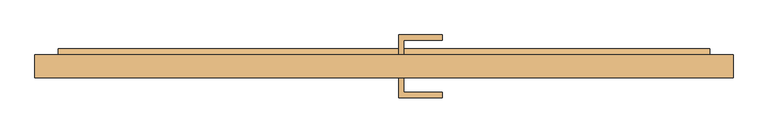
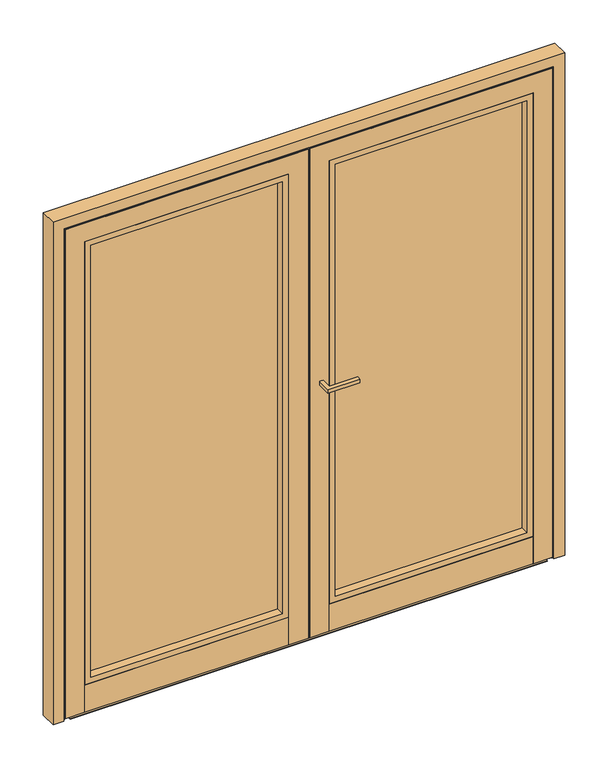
"""IFC4 building model written with IfcOpenShell, lengths in millimetres: door geometry, Reynaers_CS 77_Door_Plinth_Inward Opening_Double Vent : Reynaers_CS 77_Door_Inward Opening_Double Vent."""

from ifc_helpers import new_model, si_unit, point, frame, frame_2d, origin, place, context, project, spatial, polyline, circle_curve, trimmed, segment, composite_curve, outline, extrude, faceted_brep, source, transform, mapped, element, save


def door_1f8e81a8(model_context):
    return source(origin(), model_context, "Body", "SolidModel", [
        extrude(outline(polyline([(42.5, 80.0), (42.5, 137.5), (170.0, 137.5), (170.0, 122.5), (57.5, 122.5), (57.5, 80.0), (42.5, 80.0)])), frame((0.0, 0.0, 1062.5), z_axis=(0.0, 0.0, 1.0), x_axis=(1.0, 0.0, 0.0)), (0.0, 0.0, 1.0), 15.0),
        extrude(outline(polyline([(42.5, 12.0), (57.5, 12.0), (57.5, -30.5), (170.0, -30.5), (170.0, -45.5), (42.5, -45.5), (42.5, 12.0)])), frame((0.0, 0.0, 1062.5), z_axis=(0.0, 0.0, 1.0), x_axis=(1.0, 0.0, 0.0)), (0.0, 0.0, 1.0), 15.0),
        faceted_brep([(-18.0, 15.8, 10.5), (-3.0, 15.8, 10.5), (-3.0, 12.0, 10.5), (-80.0, 12.0, 10.5), (-80.0, 15.9785839, 10.5), (-18.0, 15.9785839, 10.5), (-18.0, 15.8, 2057.0), (-957.0, 15.8, 2057.0), (-957.0, 15.8, 49.5), (-895.0, 15.8, 49.5), (-895.0, 15.8, 10.5), (-972.0, 15.8, 10.5), (-972.0, 15.8, 2072.0), (-3.0, 15.8, 2072.0), (-3.0, 12.0, 2072.0), (-972.0, 12.0, 2072.0), (-972.0, 12.0, 10.5), (-895.0, 12.0, 10.5), (-895.0, 12.0, 1995.0), (-80.0, 12.0, 1995.0), (-80.0, 72.0, 1995.0), (-80.0, 72.0, 49.5), (-80.0, 15.9785839, 49.5), (-18.0, 15.9785839, 49.5), (-18.0, 70.2, 2057.0), (-18.0, 70.2, 49.5), (-105.0, 72.0, 49.5), (-105.0, 80.0, 49.5), (-29.0, 80.0, 49.5), (-29.0, 70.2, 49.5), (-957.0, 70.2, 2057.0), (-29.0, 70.2, 2046.0), (-946.0, 70.2, 2046.0), (-946.0, 70.2, 49.5), (-957.0, 70.2, 49.5), (-29.0, 80.0, 2046.0), (-946.0, 80.0, 2046.0), (-105.0, 80.0, 1970.0), (-870.0, 80.0, 1970.0), (-870.0, 80.0, 49.5), (-946.0, 80.0, 49.5), (-105.0, 72.0, 1970.0), (-870.0, 72.0, 1970.0), (-895.0, 72.0, 1995.0), (-895.0, 72.0, 49.5), (-870.0, 72.0, 49.5)], [[[0, 1, 2, 3, 4, 5]], [[1, 0, 6, 7, 8, 9, 10, 11, 12, 13]], [[2, 1, 13, 14]], [[3, 2, 14, 15, 16, 17, 18, 19]], [[19, 20, 21, 22, 4, 3]], [[22, 23, 5, 4]], [[24, 6, 0, 5, 23, 25]], [[23, 22, 21, 26, 27, 28, 29, 25]], [[30, 24, 25, 29, 31, 32, 33, 34]], [[35, 31, 29, 28]], [[36, 35, 28, 27, 37, 38, 39, 40]], [[41, 37, 27, 26]], [[42, 41, 26, 21, 20, 43, 44, 45]], [[7, 30, 34, 8]], [[9, 8, 34, 33, 40, 39, 45, 44]], [[32, 36, 40, 33]], [[38, 42, 45, 39]], [[43, 18, 17, 10, 9, 44]], [[10, 17, 16, 11]], [[15, 12, 11, 16]], [[30, 7, 6, 24]], [[36, 32, 31, 35]], [[42, 38, 37, 41]], [[18, 43, 20, 19]], [[12, 15, 14, 13]]]),
        faceted_brep([(80.0, 12.0, 10.5), (3.0, 12.0, 10.5), (3.0, 15.8, 10.5), (18.0, 15.8, 10.5), (18.0, 15.9785839, 10.5), (80.0, 15.9785839, 10.5), (80.0, 12.0, 1995.0), (895.0, 12.0, 1995.0), (895.0, 12.0, 10.5), (972.0, 12.0, 10.5), (972.0, 12.0, 2072.0), (3.0, 12.0, 2072.0), (3.0, 15.8, 2072.0), (972.0, 15.8, 2072.0), (972.0, 15.8, 10.5), (957.0, 15.8, 10.5), (957.0, 15.8, 2057.0), (18.0, 15.8, 2057.0), (18.0, 70.2, 2057.0), (18.0, 70.2, 49.5), (18.0, 15.9785839, 49.5), (80.0, 15.9785839, 49.5), (80.0, 72.0, 49.5), (80.0, 72.0, 1995.0), (895.0, 15.9785839, 10.5), (957.0, 15.9785839, 10.5), (895.0, 72.0, 1995.0), (895.0, 72.0, 49.5), (895.0, 15.9785839, 49.5), (957.0, 15.9785839, 49.5), (957.0, 70.2, 49.5), (957.0, 70.2, 2057.0), (946.0, 70.2, 49.5), (946.0, 70.2, 2046.0), (29.0, 70.2, 2046.0), (29.0, 70.2, 49.5), (29.0, 80.0, 49.5), (105.0, 80.0, 49.5), (105.0, 72.0, 49.5), (870.0, 72.0, 49.5), (870.0, 80.0, 49.5), (946.0, 80.0, 49.5), (946.0, 80.0, 2046.0), (29.0, 80.0, 2046.0), (870.0, 80.0, 1970.0), (105.0, 80.0, 1970.0), (870.0, 72.0, 1970.0), (105.0, 72.0, 1970.0)], [[[0, 1, 2, 3, 4, 5]], [[1, 0, 6, 7, 8, 9, 10, 11]], [[2, 1, 11, 12]], [[3, 2, 12, 13, 14, 15, 16, 17]], [[3, 17, 18, 19, 20, 4]], [[20, 21, 5, 4]], [[6, 0, 5, 21, 22, 23]], [[15, 14, 9, 8, 24, 25]], [[9, 14, 13, 10]], [[8, 7, 26, 27, 28, 24]], [[28, 29, 25, 24]], [[16, 15, 25, 29, 30, 31]], [[18, 31, 30, 32, 33, 34, 35, 19]], [[21, 20, 19, 35, 36, 37, 38, 22]], [[29, 28, 27, 39, 40, 41, 32, 30]], [[42, 33, 32, 41]], [[34, 43, 36, 35]], [[43, 42, 41, 40, 44, 45, 37, 36]], [[46, 44, 40, 39]], [[45, 47, 38, 37]], [[47, 46, 39, 27, 26, 23, 22, 38]], [[11, 10, 13, 12]], [[17, 16, 31, 18]], [[34, 33, 42, 43]], [[45, 44, 46, 47]], [[7, 6, 23, 26]]]),
        extrude(outline(polyline([(125.5, 81.0), (125.5, 894.0), (1994.0, 894.0), (1994.0, 81.0), (125.5, 81.0)]), holes=[polyline([(1970.0, 105.0), (1970.0, 870.0), (149.5, 870.0), (149.5, 105.0), (1970.0, 105.0)])]), frame((0.0, 12.0, 0.0), z_axis=(0.0, 1.0, 0.0), x_axis=(0.0, 0.0, 1.0)), (0.0, 0.0, 1.0), 33.0),
        extrude(outline(polyline([(1994.0, -894.0), (125.5, -894.0), (125.5, -81.0), (1994.0, -81.0), (1994.0, -894.0)]), holes=[polyline([(1970.0, -105.0), (149.5, -105.0), (149.5, -870.0), (1970.0, -870.0), (1970.0, -105.0)])]), frame((0.0, 12.0, 0.0), z_axis=(0.0, 1.0, 0.0), x_axis=(0.0, 0.0, 1.0)), (0.0, 0.0, 1.0), 33.0),
        extrude(outline(polyline([(889.0, 72.0), (889.0, 45.0), (86.0, 45.0), (86.0, 72.0), (889.0, 72.0)])), frame((0.0, 0.0, 130.5), z_axis=(0.0, 0.0, 1.0), x_axis=(1.0, 0.0, 0.0)), (0.0, 0.0, 1.0), 1858.5),
        extrude(outline(polyline([(-86.0, 45.0), (-889.0, 45.0), (-889.0, 72.0), (-86.0, 72.0), (-86.0, 45.0)])), frame((0.0, 0.0, 130.5), z_axis=(0.0, 0.0, 1.0), x_axis=(1.0, 0.0, 0.0)), (0.0, 0.0, 1.0), 1858.5),
        extrude(outline(polyline([(-23.0, 80.0), (23.0, 80.0), (23.0, 76.2), (8.0, 76.2), (8.0, 20.8), (-14.2, 20.8), (-14.2, 76.2), (-23.0, 76.2), (-23.0, 80.0)])), frame((0.0, 0.0, 49.5), z_axis=(0.0, 0.0, 1.0), x_axis=(1.0, 0.0, 0.0)), (0.0, 0.0, 1.0), 2002.5),
        faceted_brep([(-952.0, 76.2, 1.0), (-967.0, 76.2, 1.0), (-967.0, 21.8, 1.0), (-978.0, 21.8, 1.0), (-978.0, 12.0, 1.0), (-1020.0, 12.0, 1.0), (-1020.0, 80.0, 1.0), (-952.0, 80.0, 1.0), (-952.0, 76.2, 2052.0), (952.0, 76.2, 2052.0), (952.0, 76.2, 1.0), (967.0, 76.2, 1.0), (967.0, 76.2, 2067.0), (-967.0, 76.2, 2067.0), (-967.0, 21.8, 2067.0), (967.0, 21.8, 2067.0), (967.0, 21.8, 1.0), (978.0, 21.8, 1.0), (978.0, 21.8, 2078.0), (-978.0, 21.8, 2078.0), (-978.0, 12.0, 2078.0), (978.0, 12.0, 2078.0), (978.0, 12.0, 1.0), (1020.0, 12.0, 1.0), (1020.0, 12.0, 2120.0), (-1020.0, 12.0, 2120.0), (-1020.0, 80.0, 2120.0), (1020.0, 80.0, 2120.0), (1020.0, 80.0, 1.0), (952.0, 80.0, 1.0), (952.0, 80.0, 2052.0), (-952.0, 80.0, 2052.0)], [[[0, 1, 2, 3, 4, 5, 6, 7]], [[1, 0, 8, 9, 10, 11, 12, 13]], [[2, 1, 13, 14]], [[3, 2, 14, 15, 16, 17, 18, 19]], [[4, 3, 19, 20]], [[5, 4, 20, 21, 22, 23, 24, 25]], [[6, 5, 25, 26]], [[7, 6, 26, 27, 28, 29, 30, 31]], [[0, 7, 31, 8]], [[10, 29, 28, 23, 22, 17, 16, 11]], [[9, 30, 29, 10]], [[27, 24, 23, 28]], [[21, 18, 17, 22]], [[15, 12, 11, 16]], [[14, 13, 12, 15]], [[20, 19, 18, 21]], [[26, 25, 24, 27]], [[8, 31, 30, 9]]]),
        extrude(outline(polyline([(12.0, 2.4159265), (20.5196991, 3.1613036), (20.5196991, 14.0914034), (22.1196991, 14.0914034), (22.1196991, 12.093316), (65.7605139, 12.093316), (71.9615039, 19.4833682), (79.8421868, 13.9652547), (79.8421868, 1.0), (12.0, 1.0), (12.0, 2.4159265)])), frame((-952.0, 0.0, 0.0), z_axis=(1.0, 0.0, 0.0), x_axis=(0.0, 1.0, 0.0)), (0.0, 0.0, 1.0), 1904.0),
        extrude(outline(composite_curve([segment(polyline([(96.7195633, 31.6158958), (96.7195633, 23.6158958), (70.9525408, 23.6158958)]), True, "CONTINUOUS"), segment(trimmed(circle_curve(frame_2d((69.5167667, 20.5479726)), 3.3872704), [point((70.9525408, 23.6158958))], [point((68.6476631, 17.2740972))], False, "CARTESIAN"), True, "CONTINUOUS"), segment(trimmed(circle_curve(frame_2d((71.1854619, 25.7190751)), 8.8180539), [point((68.6476631, 17.2740972))], [point((65.7017976, 18.8134614))], False, "CARTESIAN"), True, "CONTINUOUS"), segment(polyline([(65.7017976, 18.8134614), (59.2504391, 18.8134614), (59.2504391, 27.1180563), (77.7096447, 27.1180563), (77.7096447, 49.5), (79.9899456, 49.5), (79.9899456, 37.7049787), (96.7195633, 31.6158958)]), True, "CONTINUOUS")], self_intersect=False)), frame((-952.0, 0.0, 0.0), z_axis=(1.0, 0.0, 0.0), x_axis=(0.0, 1.0, 0.0)), (0.0, 0.0, 1.0), 1904.0),
        faceted_brep([(-80.0, 72.0, 124.5), (-80.0, 12.0, 124.5), (-80.0, 12.0, 10.5), (-80.0, 15.8, 10.5), (-80.0, 15.8, 49.5), (-80.0, 72.0, 49.5), (-895.0, 15.8, 49.5), (-895.0, 15.8, 10.5), (-895.0, 12.0, 10.5), (-895.0, 12.0, 124.5), (-895.0, 72.0, 124.5), (-895.0, 72.0, 49.5), (-870.0, 72.0, 49.5), (-870.0, 80.0, 49.5), (-105.0, 80.0, 49.5), (-105.0, 72.0, 49.5), (-870.0, 80.0, 149.5), (-105.0, 80.0, 149.5), (-870.0, 72.0, 149.5), (-105.0, 72.0, 149.5), (-870.0, 72.0, 124.5), (-105.0, 72.0, 124.5)], [[[0, 1, 2, 3, 4, 5]], [[6, 7, 8, 9, 10, 11]], [[4, 6, 11, 12, 13, 14, 15, 5]], [[13, 16, 17, 14]], [[16, 18, 19, 17]], [[18, 20, 21, 19]], [[1, 0, 21, 20, 10, 9]], [[2, 1, 9, 8]], [[3, 2, 8, 7]], [[4, 3, 7, 6]], [[20, 12, 11, 10]], [[12, 20, 18, 16, 13]], [[15, 21, 0, 5]], [[21, 15, 14, 17, 19]]]),
        faceted_brep([(894.0, 72.0, 124.5), (894.0, 12.0, 124.5), (894.0, 12.0, 10.5), (894.0, 15.9785839, 10.5), (894.0, 15.9785839, 49.5), (894.0, 72.0, 49.5), (80.0, 15.9785839, 49.5), (80.0, 15.9785839, 10.5), (80.0, 12.0, 10.5), (80.0, 12.0, 124.5), (80.0, 72.0, 124.5), (80.0, 72.0, 49.5), (105.0, 80.0, 49.5), (105.0, 80.0, 149.5), (870.0, 80.0, 149.5), (870.0, 80.0, 49.5), (105.0, 72.0, 149.5), (870.0, 72.0, 149.5), (105.0, 72.0, 124.5), (870.0, 72.0, 124.5), (105.0, 72.0, 49.5), (870.0, 72.0, 49.5)], [[[0, 1, 2, 3, 4, 5]], [[6, 7, 8, 9, 10, 11]], [[12, 13, 14, 15]], [[13, 16, 17, 14]], [[16, 18, 19, 17]], [[1, 0, 19, 18, 10, 9]], [[2, 1, 9, 8]], [[3, 2, 8, 7]], [[4, 3, 7, 6]], [[4, 6, 11, 20, 12, 15, 21, 5]], [[18, 20, 11, 10]], [[20, 18, 16, 13, 12]], [[21, 19, 0, 5]], [[19, 21, 15, 14, 17]]]),
    ])


if __name__ == "__main__":
    model = new_model("IFC4")
    model_context = context("Model", 3, world=origin())
    ifc_project = project(units=[si_unit("LENGTHUNIT", "METRE", prefix="MILLI")], contexts=[model_context])
    site = spatial("IfcSite", under=ifc_project)
    building = spatial("IfcBuilding", under=site)
    placement = place(None, origin())
    door_shape = door_1f8e81a8(model_context)
    element("IfcDoor", 1, ObjectType="Reynaers_CS 77_Door_Plinth_Inward Opening_Double Vent : Reynaers_CS 77_Door_Inward Opening_Double Vent", at=placement, inside=building, context=model_context, shape_type="MappedRepresentation", body=[
        mapped(door_shape, transform((0.0, 0.0, 0.0), x_axis=(1.0, 0.0, 0.0), y_axis=(0.0, 1.0, 0.0), z_axis=(0.0, 0.0, 1.0))),
    ])
    save(model, "model.ifc")
